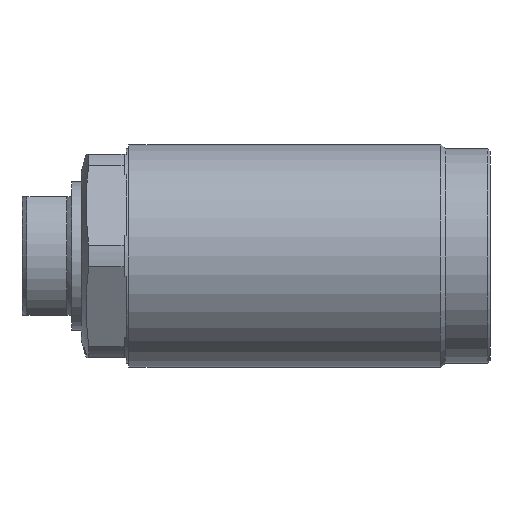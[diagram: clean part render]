
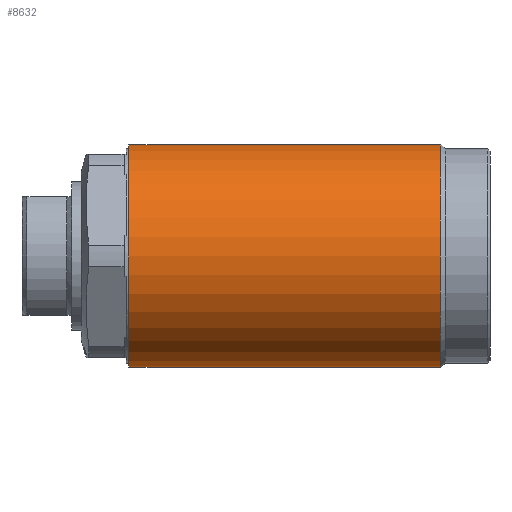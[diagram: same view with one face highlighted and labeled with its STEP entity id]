
A CAD part, left-side view. The second image highlights one B-rep face of the part: STEP entity #8632.
In plain terms, the highlighted cylindrical face has radius 22.5 mm (diameter 45 mm), a partial arc.
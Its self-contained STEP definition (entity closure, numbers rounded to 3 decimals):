
#159 = CYLINDRICAL_SURFACE ( 'NONE', #3861, 22.5 ) ;
#203 = EDGE_CURVE ( 'NONE', #7045, #610, #1400, .T. ) ;
#610 = VERTEX_POINT ( 'NONE', #911 ) ;
#744 = AXIS2_PLACEMENT_3D ( 'NONE', #7179, #1539, #8123 ) ;
#911 = CARTESIAN_POINT ( 'NONE',  ( 0., -37.399, -22.5 ) ) ;
#1051 = CARTESIAN_POINT ( 'NONE',  ( 0., 25.501, -22.5 ) ) ;
#1400 = CIRCLE ( 'NONE', #6587, 22.5 ) ;
#1487 = ORIENTED_EDGE ( 'NONE', *, *, #11770, .F. ) ;
#1539 = DIRECTION ( 'NONE',  ( 0., -1., 0. ) ) ;
#2463 = DIRECTION ( 'NONE',  ( 0., -1., 0. ) ) ;
#3529 = DIRECTION ( 'NONE',  ( 0., -1., 0. ) ) ;
#3837 = EDGE_CURVE ( 'NONE', #4379, #610, #6542, .T. ) ;
#3861 = AXIS2_PLACEMENT_3D ( 'NONE', #11971, #3529, #5316 ) ;
#4192 = DIRECTION ( 'NONE',  ( 0., -1., 0. ) ) ;
#4379 = VERTEX_POINT ( 'NONE', #1051 ) ;
#4484 = ORIENTED_EDGE ( 'NONE', *, *, #3837, .T. ) ;
#5147 = FACE_OUTER_BOUND ( 'NONE', #7749, .T. ) ;
#5316 = DIRECTION ( 'NONE',  ( 0., 0., -1. ) ) ;
#5613 = VECTOR ( 'NONE', #2463, 1000. ) ;
#6078 = CARTESIAN_POINT ( 'NONE',  ( 0., -54.764, -22.5 ) ) ;
#6179 = CARTESIAN_POINT ( 'NONE',  ( 0., -37.399, 22.5 ) ) ;
#6444 = ORIENTED_EDGE ( 'NONE', *, *, #11358, .T. ) ;
#6517 = LINE ( 'NONE', #8109, #5613 ) ;
#6542 = LINE ( 'NONE', #6078, #8774 ) ;
#6587 = AXIS2_PLACEMENT_3D ( 'NONE', #10371, #10285, #7248 ) ;
#7045 = VERTEX_POINT ( 'NONE', #6179 ) ;
#7179 = CARTESIAN_POINT ( 'NONE',  ( 0., 25.501, 0. ) ) ;
#7248 = DIRECTION ( 'NONE',  ( 0., 0., -1. ) ) ;
#7304 = VERTEX_POINT ( 'NONE', #8714 ) ;
#7749 = EDGE_LOOP ( 'NONE', ( #1487, #6444, #4484, #9496 ) ) ;
#8109 = CARTESIAN_POINT ( 'NONE',  ( 0., -54.764, 22.5 ) ) ;
#8123 = DIRECTION ( 'NONE',  ( 0., 0., -1. ) ) ;
#8632 = ADVANCED_FACE ( 'NONE', ( #5147 ), #159, .T. ) ;
#8714 = CARTESIAN_POINT ( 'NONE',  ( 0., 25.501, 22.5 ) ) ;
#8774 = VECTOR ( 'NONE', #4192, 1000. ) ;
#9496 = ORIENTED_EDGE ( 'NONE', *, *, #203, .F. ) ;
#10285 = DIRECTION ( 'NONE',  ( 0., -1., 0. ) ) ;
#10371 = CARTESIAN_POINT ( 'NONE',  ( 0., -37.399, 0. ) ) ;
#10534 = CIRCLE ( 'NONE', #744, 22.5 ) ;
#11358 = EDGE_CURVE ( 'NONE', #7304, #4379, #10534, .T. ) ;
#11770 = EDGE_CURVE ( 'NONE', #7304, #7045, #6517, .T. ) ;
#11971 = CARTESIAN_POINT ( 'NONE',  ( 0., -54.764, 0. ) ) ;
